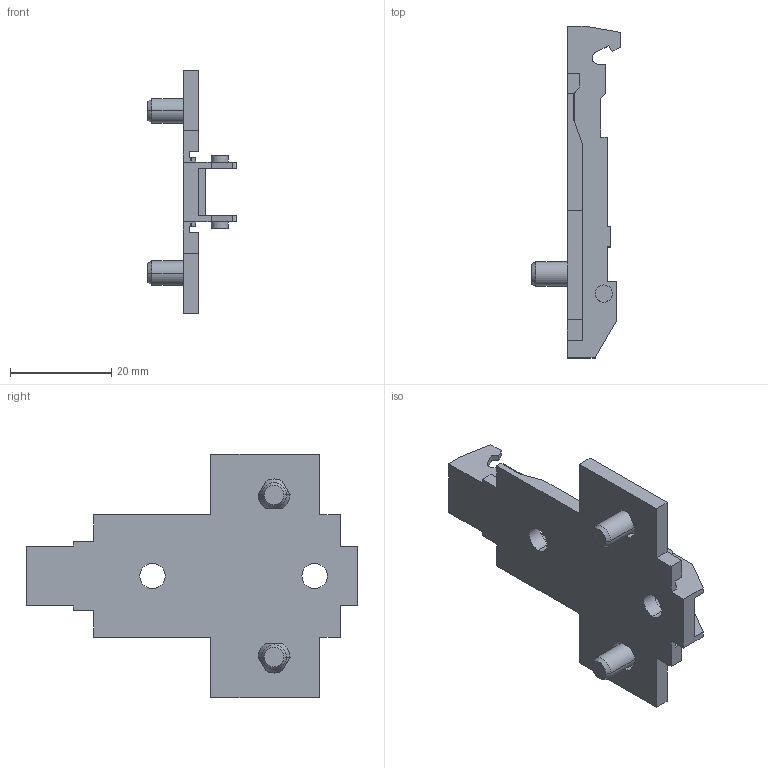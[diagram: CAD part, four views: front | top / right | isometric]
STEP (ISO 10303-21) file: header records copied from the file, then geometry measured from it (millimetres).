
FILE_DESCRIPTION (( 'STEP AP214' ), '1' );
FILE_NAME ('1D_Kreuzmontageplatte 28_32_Euro_vorgestellt 10_0.step', '2010-11-18T10:19:44', ( 'grass' ), ( '' ), 'SwSTEP 2.0', 'SolidWorks 2010', '' );
FILE_SCHEMA (( 'AUTOMOTIVE_DESIGN' ));
Length unit declared in the file: millimetre
Products named in the file (1): 1D_Kreuzmontageplatte 28_32_Euro_vorgestellt 10_0
Bounding box: 17.5 x 65.5 x 48 mm (x, y, z)
Volume: 6336.5 mm3; surface area: 6523.9 mm2
Topology: 1 solids, 1 shells, 138 faces, 390 edges, 254 vertices
Faces by surface type: plane 92, cylinder 34, cone 12
Entity records: 4550 total; most frequent: CARTESIAN_POINT 873, ORIENTED_EDGE 780, DIRECTION 730, EDGE_CURVE 390, VECTOR 292, LINE 292, VERTEX_POINT 254, AXIS2_PLACEMENT_3D 219
